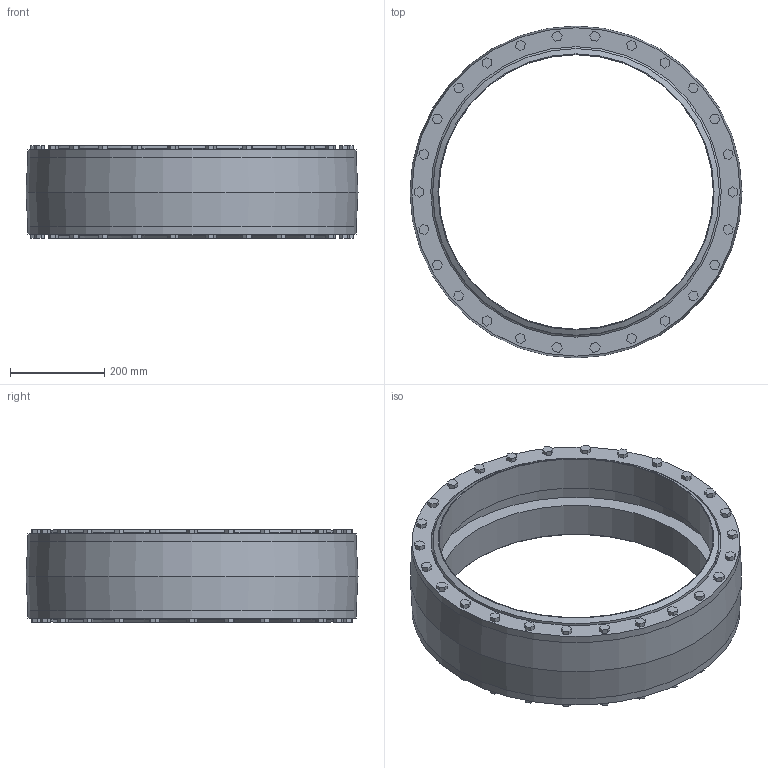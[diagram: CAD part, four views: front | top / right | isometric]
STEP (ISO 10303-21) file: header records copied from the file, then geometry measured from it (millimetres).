
FILE_DESCRIPTION(/* description */ ('VIC EXPANSION JOINT COUPLING 152-A','CAx-IF Rec.Pracs.---Representation and Presentation of Product Manufacturing Information (PMI)---4.0---2014-10-13'),/* implementation_level */ '2;1');
FILE_NAME(/* name */ 'C:\Users\kkamble\AppData\Roaming\Autodesk\ApplicationPlugins\Back Up\Victaulic_Vic-Ring_Coupling Expansion Joint_Style 152A (OGR)\Victaulic_Vic-Ring_Coupling Expansion Joint_Style 152A (OGR)_24 (600).stp',/* time_stamp */ '2020-09-10T11:34:15+05:00',/* author */ ('jheald'),/* organization */ ('Victaulic'),/* preprocessor_version */ 'ST-DEVELOPER v17.2',/* originating_system */ 'Autodesk Inventor 2019',/* authorisation */ '');
FILE_SCHEMA (('AP242_MANAGED_MODEL_BASED_3D_ENGINEERING_MIM_LF { 1 0 10303 442 1 1 4 }'));
Length unit declared in the file: inch
Products named in the file (1): 152A-24.0
Bounding box: 706.19 x 706.19 x 196.85 mm (x, y, z)
Volume: 17725482.3 mm3; surface area: 1792448.2 mm2
Topology: 1 solids, 1 shells, 401 faces, 1035 edges, 700 vertices
Faces by surface type: plane 378, cylinder 15, cone 6, torus 2
Full cylindrical faces by diameter (mm): 584.2 x2, 609.6 x2, 617.728 x2, 624.078 x2, 644.652 x4, 647.7 x1, 698.5 x2
Entity records: 12620 total; most frequent: CARTESIAN_POINT 2154, ORIENTED_EDGE 2070, DIRECTION 1943, EDGE_CURVE 1035, LINE 957, VECTOR 957, VERTEX_POINT 700, AXIS2_PLACEMENT_3D 493
